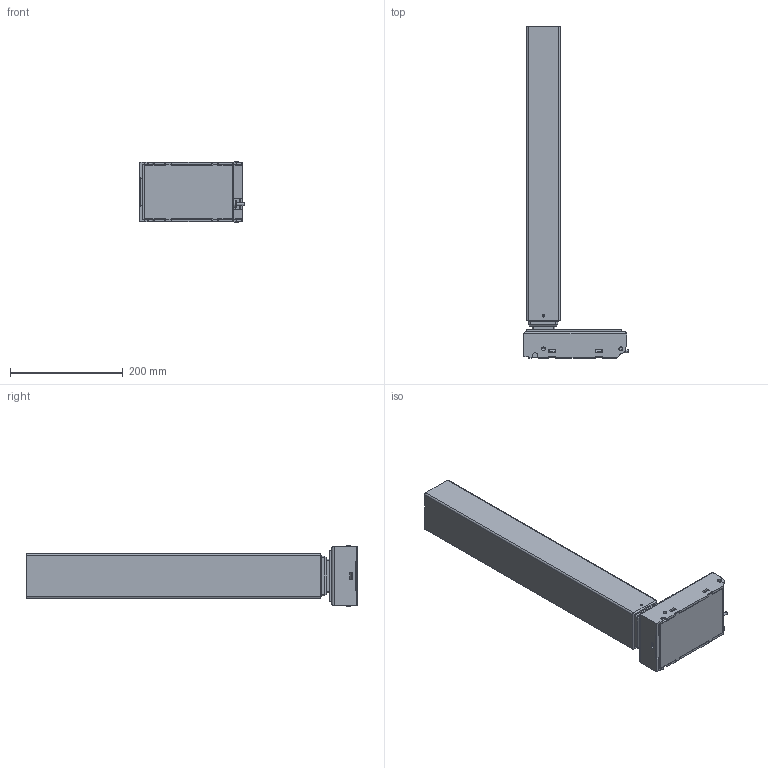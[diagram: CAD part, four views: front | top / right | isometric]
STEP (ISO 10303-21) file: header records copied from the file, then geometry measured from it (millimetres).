
FILE_DESCRIPTION (( 'STEP AP203' ), '1' );
FILE_NAME ('3D_TL10.STEP', '2019-07-04T03:18:55', ( '' ), ( '' ), 'SwSTEP 2.0', 'SolidWorks 2015', '' );
FILE_SCHEMA (( 'CONFIG_CONTROL_DESIGN' ));
Length unit declared in the file: millimetre
Products named in the file (1): 3D_TL10
Bounding box: 185.5 x 590 x 107 mm (x, y, z)
Volume: 3465229.5 mm3; surface area: 261117.5 mm2
Topology: 1 solids, 3 shells, 428 faces, 1138 edges, 704 vertices
Faces by surface type: plane 230, cylinder 136, cone 32, torus 18, bspline 6, sphere 6
Entity records: 13331 total; most frequent: CARTESIAN_POINT 2687, ORIENTED_EDGE 2236, DIRECTION 2144, EDGE_CURVE 1118, LINE 810, VECTOR 810, VERTEX_POINT 704, AXIS2_PLACEMENT_3D 667
